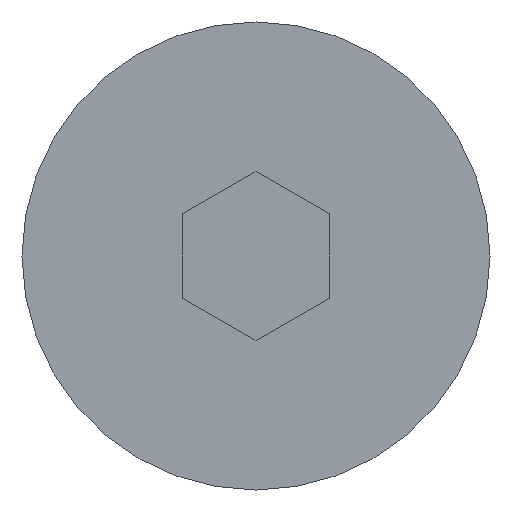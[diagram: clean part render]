
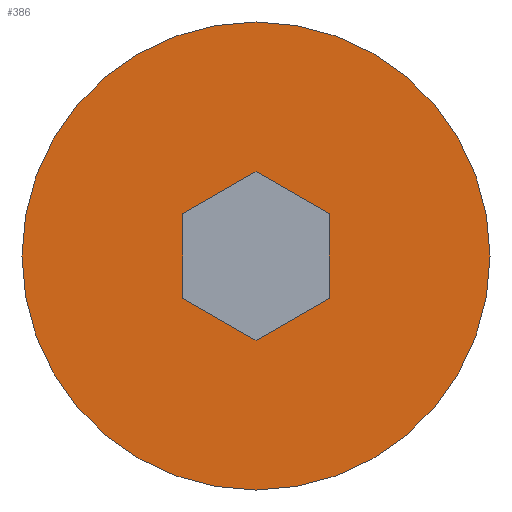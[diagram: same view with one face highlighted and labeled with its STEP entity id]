
A CAD part, front view. The second image highlights one B-rep face of the part: STEP entity #386.
In plain terms, the highlighted planar face has unit normal (0, -1, 0).
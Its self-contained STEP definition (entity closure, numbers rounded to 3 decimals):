
#93=CARTESIAN_POINT('',(0.,-2.3,0.));
#94=DIRECTION('',(0.,-1.,0.));
#95=DIRECTION('',(1.,0.,0.));
#96=AXIS2_PLACEMENT_3D('',#93,#94,#95);
#98=CARTESIAN_POINT('',(0.,-2.3,0.));
#99=DIRECTION('',(0.,-1.,0.));
#100=DIRECTION('',(-1.,0.,0.));
#101=AXIS2_PLACEMENT_3D('',#98,#99,#100);
#103=DIRECTION('',(0.,0.,1.));
#104=VECTOR('',#103,1.443);
#105=CARTESIAN_POINT('',(1.25,-2.3,-0.722));
#106=LINE('',#105,#104);
#107=DIRECTION('',(-0.866,0.,0.5));
#108=VECTOR('',#107,1.443);
#109=CARTESIAN_POINT('',(1.25,-2.3,0.722));
#110=LINE('',#109,#108);
#111=DIRECTION('',(-0.866,0.,-0.5));
#112=VECTOR('',#111,1.443);
#113=CARTESIAN_POINT('',(0.,-2.3,1.443));
#114=LINE('',#113,#112);
#115=DIRECTION('',(0.,0.,-1.));
#116=VECTOR('',#115,1.443);
#117=CARTESIAN_POINT('',(-1.25,-2.3,0.722));
#118=LINE('',#117,#116);
#119=DIRECTION('',(0.866,0.,-0.5));
#120=VECTOR('',#119,1.443);
#121=CARTESIAN_POINT('',(-1.25,-2.3,-0.722));
#122=LINE('',#121,#120);
#123=DIRECTION('',(0.866,0.,0.5));
#124=VECTOR('',#123,1.443);
#125=CARTESIAN_POINT('',(0.,-2.3,-1.443));
#126=LINE('',#125,#124);
#175=CARTESIAN_POINT('',(4.,-2.3,0.));
#176=CARTESIAN_POINT('',(-4.,-2.3,0.));
#177=VERTEX_POINT('',#175);
#178=VERTEX_POINT('',#176);
#191=CARTESIAN_POINT('',(1.25,-2.3,-0.722));
#192=CARTESIAN_POINT('',(1.25,-2.3,0.722));
#193=VERTEX_POINT('',#191);
#194=VERTEX_POINT('',#192);
#195=CARTESIAN_POINT('',(0.,-2.3,1.443));
#196=VERTEX_POINT('',#195);
#197=CARTESIAN_POINT('',(-1.25,-2.3,0.722));
#198=VERTEX_POINT('',#197);
#199=CARTESIAN_POINT('',(-1.25,-2.3,-0.722));
#200=VERTEX_POINT('',#199);
#201=CARTESIAN_POINT('',(0.,-2.3,-1.443));
#202=VERTEX_POINT('',#201);
#363=CARTESIAN_POINT('',(0.,-2.3,0.));
#364=DIRECTION('',(0.,-1.,0.));
#365=DIRECTION('',(1.,0.,0.));
#366=AXIS2_PLACEMENT_3D('',#363,#364,#365);
#367=PLANE('',#366);
#368=ORIENTED_EDGE('',*,*,#357,.F.);
#369=ORIENTED_EDGE('',*,*,#341,.F.);
#370=EDGE_LOOP('',(#368,#369));
#371=FACE_OUTER_BOUND('',#370,.F.);
#373=ORIENTED_EDGE('',*,*,#372,.T.);
#375=ORIENTED_EDGE('',*,*,#374,.T.);
#377=ORIENTED_EDGE('',*,*,#376,.T.);
#379=ORIENTED_EDGE('',*,*,#378,.T.);
#381=ORIENTED_EDGE('',*,*,#380,.T.);
#383=ORIENTED_EDGE('',*,*,#382,.T.);
#384=EDGE_LOOP('',(#373,#375,#377,#379,#381,#383));
#385=FACE_BOUND('',#384,.F.);
#386=ADVANCED_FACE('',(#371,#385),#367,.T.);
#97=CIRCLE('',#96,4.);
#102=CIRCLE('',#101,4.);
#341=EDGE_CURVE('',#178,#177,#102,.T.);
#357=EDGE_CURVE('',#177,#178,#97,.T.);
#372=EDGE_CURVE('',#193,#194,#106,.T.);
#374=EDGE_CURVE('',#194,#196,#110,.T.);
#376=EDGE_CURVE('',#196,#198,#114,.T.);
#378=EDGE_CURVE('',#198,#200,#118,.T.);
#380=EDGE_CURVE('',#200,#202,#122,.T.);
#382=EDGE_CURVE('',#202,#193,#126,.T.);
